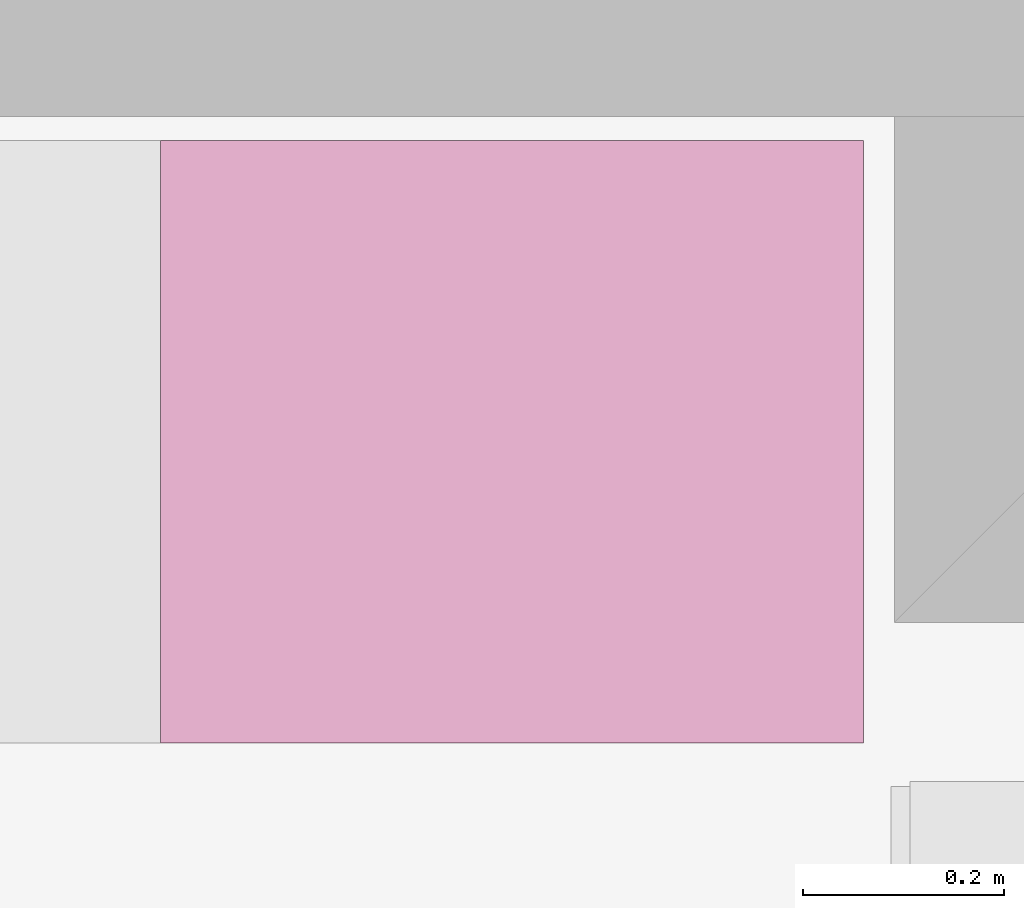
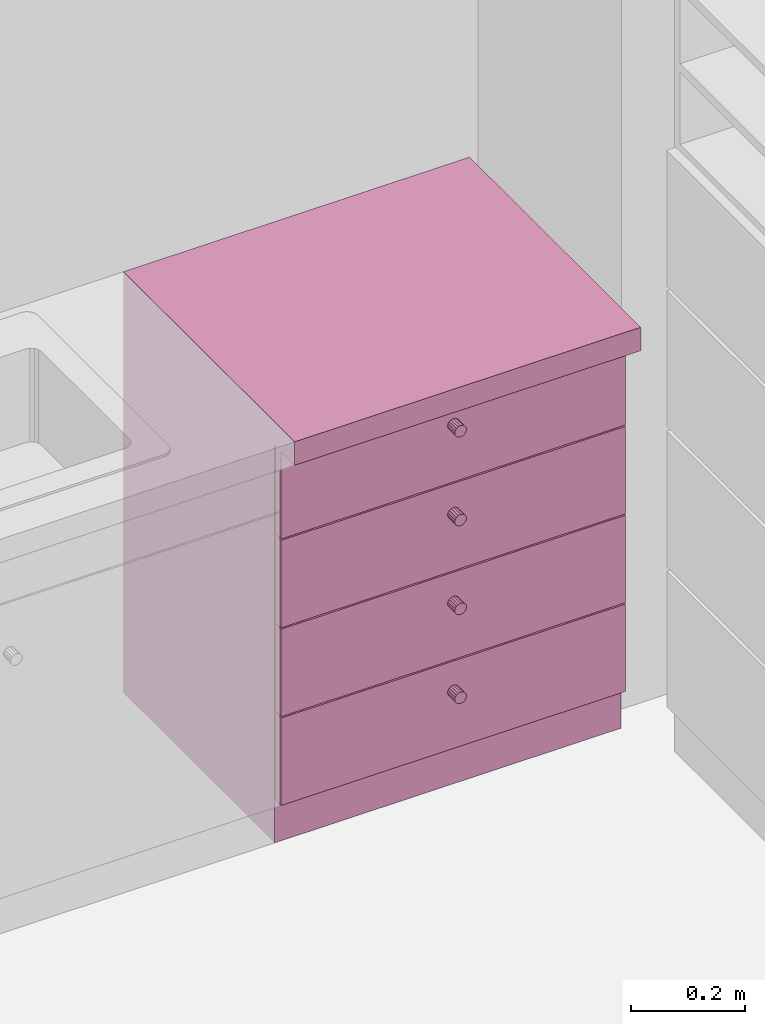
# One storey, part 168 of 194: 1 furnishing.
"""IFC2X3 building model written with IfcOpenShell, lengths in millimetres."""

import ifcopenshell
import ifcopenshell.guid

model = None  # the IFC model being written
_history = None  # IfcOwnerHistory: only IFC2X3 demands one
_inside = {}  # id of a spatial element -> (the spatial element, [elements in it])
_under = {}  # id of a project, library or spatial element -> (it, [spatial elements below it])
_declared = {}  # id of a project -> (the project, [libraries it declares])
_typed = {}  # id of a type object -> (the type object, [elements of that type])
_made_of = {}  # id of a material, layer set ... -> (it, [elements and type objects made of it])


def new_model(schema):
    """Start an empty IFC model of exactly this schema.

    Asked for "IFC4X3", IfcOpenShell would pick the latest addendum, in which some entities
    have other attributes; the version numbers below select the first issue.
    IFC2X3 requires an IfcOwnerHistory on every rooted entity: one is made here for all.
    """
    global model, _history
    if schema == "IFC4X3":
        model = ifcopenshell.file(schema_version=(4, 3, 0, 0))
    else:
        model = ifcopenshell.file(schema=schema)
    _inside.clear()
    _under.clear()
    _declared.clear()
    _typed.clear()
    _made_of.clear()
    _history = None
    if model.schema == "IFC2X3":
        org = make("IfcOrganization", Name="unknown")
        user = make(
            "IfcPersonAndOrganization",
            ThePerson=make("IfcPerson", FamilyName="unknown"),
            TheOrganization=org,
        )
        app = make(
            "IfcApplication",
            ApplicationDeveloper=org,
            Version="unknown",
            ApplicationFullName="unknown",
            ApplicationIdentifier="unknown",
        )
        _history = make(
            "IfcOwnerHistory",
            OwningUser=user,
            OwningApplication=app,
            ChangeAction="ADDED",
            CreationDate=0,
        )
    return model


def make(cls, **values):
    """One entity of the class cls with the attributes given. An attribute that is None is left unset."""
    return model.create_entity(
        cls, **{name: value for name, value in values.items() if value is not None}
    )


def entity(cls, *values):
    """Any entity or typed value of the class cls, its attributes in the order of the schema. None: left unset."""
    e = model.create_entity(cls)
    for i, value in enumerate(values):
        if value is not None:
            e[i] = value
    return e


def rooted(cls, **values):
    """An entity with a GlobalId (a new one), such as an element, a storey or a relation."""
    return make(cls, GlobalId=ifcopenshell.guid.new(), OwnerHistory=_history, **values)


def si_unit(unit_type, name, prefix=None):
    """IfcSIUnit, for example si_unit("LENGTHUNIT", "METRE", prefix="MILLI")."""
    return make("IfcSIUnit", UnitType=unit_type, Prefix=prefix, Name=name)


def converted_unit(unit_type, name, factor, base, dimensions=None, offset=None):
    """IfcConversionBasedUnit, such as the inch: factor (a typed value) times the base unit."""
    return make(
        "IfcConversionBasedUnit"
        if offset is None
        else "IfcConversionBasedUnitWithOffset",
        ConversionOffset=offset,
        Dimensions=None
        if dimensions is None
        else entity("IfcDimensionalExponents", *dimensions),
        UnitType=unit_type,
        Name=name,
        ConversionFactor=make(
            "IfcMeasureWithUnit", ValueComponent=factor, UnitComponent=base
        ),
    )


def derived_unit(unit_type, elements):
    """IfcDerivedUnit: a product of units, each with its exponent."""
    return make(
        "IfcDerivedUnit",
        Elements=[
            make("IfcDerivedUnitElement", Unit=unit, Exponent=power)
            for unit, power in elements
        ],
        UnitType=unit_type,
    )


def money_unit(currency):
    """IfcMonetaryUnit."""
    return make("IfcMonetaryUnit", Currency=currency)


def assignment(units):
    """IfcUnitAssignment: the units of a project."""
    return None if units is None else make("IfcUnitAssignment", Units=units)


def point(xyz):
    """IfcCartesianPoint."""
    return None if xyz is None else make("IfcCartesianPoint", Coordinates=xyz)


def direction(xyz):
    """IfcDirection."""
    return None if xyz is None else make("IfcDirection", DirectionRatios=xyz)


def frame(location, z_axis=None, x_axis=None):
    """IfcAxis2Placement3D, a coordinate frame: its origin and axes. An axis left out is left unset."""
    return make(
        "IfcAxis2Placement3D",
        Location=point(location),
        Axis=direction(z_axis),
        RefDirection=direction(x_axis),
    )


def origin_with_axes():
    """The frame at (0, 0, 0) with the z axis (0, 0, 1) and the x axis (1, 0, 0) written out."""
    return frame((0.0, 0.0, 0.0), z_axis=(0.0, 0.0, 1.0), x_axis=(1.0, 0.0, 0.0))


def place(relative_to, where):
    """IfcLocalPlacement: puts the frame where relative to a parent placement (None: the world)."""
    return make(
        "IfcLocalPlacement", PlacementRelTo=relative_to, RelativePlacement=where
    )


def context(
    kind, dimensions, precision=None, world=None, true_north=None, identifier=None
):
    """IfcGeometricRepresentationContext, for example the 3D "Model" context."""
    return make(
        "IfcGeometricRepresentationContext",
        ContextIdentifier=identifier,
        ContextType=kind,
        CoordinateSpaceDimension=dimensions,
        Precision=precision,
        WorldCoordinateSystem=world,
        TrueNorth=true_north,
    )


def subcontext(parent, identifier, kind, view, scale=None):
    """IfcGeometricRepresentationSubContext, for example "Body" below "Model"."""
    return make(
        "IfcGeometricRepresentationSubContext",
        ContextIdentifier=identifier,
        ContextType=kind,
        ParentContext=parent,
        TargetScale=scale,
        TargetView=view,
    )


def project(units=None, contexts=None):
    """IfcProject with its units and contexts."""
    return rooted(
        "IfcProject",
        Name="project",
        RepresentationContexts=contexts,
        UnitsInContext=assignment(units),
    )


def spatial(cls, under=None, at=None, **own):
    """A site, building, storey or space (cls), placed at a placement, below another one or the project."""
    s = rooted(cls, ObjectPlacement=at, **own)
    if under is not None:
        _under.setdefault(under.id(), (under, []))[1].append(s)
    return s


def faces_of(points, faces, orient=None, outer=None):
    """IfcFace entities. A face is a list of loops; a loop is a list of indices into points, from 0.

    orient and outer hold one flag for each loop. By default every Orientation is true, the
    first loop of a face is its IfcFaceOuterBound and the others are IfcFaceBound.
    """
    made = []
    for i, loops in enumerate(faces):
        bounds = []
        for j, loop in enumerate(loops):
            is_outer = j == 0 if outer is None else outer[i][j]
            bounds.append(
                make(
                    "IfcFaceOuterBound" if is_outer else "IfcFaceBound",
                    Bound=make("IfcPolyLoop", Polygon=[points[k] for k in loop]),
                    Orientation=True if orient is None else orient[i][j],
                )
            )
        made.append(make("IfcFace", Bounds=bounds))
    return made


def faceted_brep(points, faces, orient=None, outer=None, voids=None):
    """IfcFacetedBrep: a solid bounded by flat faces; with voids (closed shells), ...WithVoids."""
    shared = [point(p) for p in points]
    hull = make("IfcClosedShell", CfsFaces=faces_of(shared, faces, orient, outer))
    if voids is None:
        return make("IfcFacetedBrep", Outer=hull)
    return make(
        "IfcFacetedBrepWithVoids",
        Outer=hull,
        Voids=[
            make(cls, CfsFaces=faces_of(shared, fs, o, b)) for cls, fs, o, b in voids
        ],
    )


def shape(context_of_items, identifier, shape_type, items):
    """IfcShapeRepresentation: the items that make up one representation, for example the "Body"."""
    return make(
        "IfcShapeRepresentation",
        ContextOfItems=context_of_items,
        RepresentationIdentifier=identifier,
        RepresentationType=shape_type,
        Items=items,
    )


def made_of(thing, what):
    """Note that an element or type object is made of a material, layer set ...; save() writes the relation."""
    if what is not None:
        _made_of.setdefault(what.id(), (what, []))[1].append(thing)
    return thing


def type_object(cls, material=None, **own):
    """A type object (cls), such as IfcWallType, which elements share."""
    return made_of(rooted(cls, **own), material)


def element(
    cls,
    number,
    at=None,
    inside=None,
    cuts=None,
    type_object=None,
    material=None,
    context=None,
    identifier="Body",
    shape_type=None,
    held_by="IfcProductDefinitionShape",
    body=None,
    shapes=None,
    **own,
):
    """One element of the class cls, such as IfcWall. Its Tag is "e" and its number.

    at: its placement. inside: the storey or other place that contains it. cuts: it is an
    opening in that element (IfcRelVoidsElement). A single representation is given by context,
    identifier, shape_type and body (its items); several are given by shapes. held_by: the class
    of the entity that holds the representations. save() writes the other relations.
    """
    e = rooted(cls, Tag="e%d" % number, ObjectPlacement=at, **own)
    if body is not None:
        shapes = [shape(context, identifier, shape_type, body)]
    if shapes is not None:
        e.Representation = make(held_by, Representations=shapes)
    if inside is not None:
        _inside.setdefault(inside.id(), (inside, []))[1].append(e)
    if cuts is not None:
        rooted(
            "IfcRelVoidsElement", RelatingBuildingElement=cuts, RelatedOpeningElement=e
        )
    if type_object is not None:
        _typed.setdefault(type_object.id(), (type_object, []))[1].append(e)
    return made_of(e, material)


def aggregate(whole, parts):
    """IfcRelAggregates: a whole, such as a stair, and the parts it consists of."""
    return rooted("IfcRelAggregates", RelatingObject=whole, RelatedObjects=parts)


def save(model, path):
    """Write the relations noted so far, then the file.

    IfcRelAggregates (storeys below a building ...), IfcRelContainedInSpatialStructure (elements
    in a storey), IfcRelDefinesByType, IfcRelAssociatesMaterial and IfcRelDeclares: one each for
    every whole, place, type object, material and project.
    """
    for whole, parts in _under.values():
        aggregate(whole, parts)
    for where, things in _inside.values():
        rooted(
            "IfcRelContainedInSpatialStructure",
            RelatedElements=things,
            RelatingStructure=where,
        )
    for kind, things in _typed.values():
        rooted("IfcRelDefinesByType", RelatedObjects=things, RelatingType=kind)
    for what, things in _made_of.values():
        rooted("IfcRelAssociatesMaterial", RelatedObjects=things, RelatingMaterial=what)
    for by, libraries in _declared.values():
        rooted("IfcRelDeclares", RelatingContext=by, RelatedDefinitions=libraries)
    model.write(path)


model = new_model("IFC2X3")

# Units and contexts
model_context = context("Model", 3, precision=1e-05, world=origin_with_axes(), true_north=direction((0.0, 1.0)))
body_context = subcontext(model_context, "Body", "Model", "MODEL_VIEW")
ifc_project = project(units=[si_unit("LENGTHUNIT", "METRE", prefix="MILLI"), si_unit("AREAUNIT", "SQUARE_METRE"), si_unit("VOLUMEUNIT", "CUBIC_METRE"), converted_unit("PLANEANGLEUNIT", "DEGREE", entity("IfcPlaneAngleMeasure", 0.0174532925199), si_unit("PLANEANGLEUNIT", "RADIAN"), dimensions=[0, 0, 0, 0, 0, 0, 0]), si_unit("SOLIDANGLEUNIT", "STERADIAN"), money_unit("EUR"), converted_unit("TIMEUNIT", "Year", entity("IfcTimeMeasure", 31556926.0), si_unit("TIMEUNIT", "SECOND"), dimensions=[0, 0, 1, 0, 0, 0, 0]), si_unit("MASSUNIT", "GRAM", prefix="KILO"), si_unit("THERMODYNAMICTEMPERATUREUNIT", "DEGREE_CELSIUS"), si_unit("LUMINOUSINTENSITYUNIT", "LUMEN"), si_unit("ENERGYUNIT", "JOULE", prefix="MEGA"), derived_unit("THERMALCONDUCTANCEUNIT", [(si_unit("POWERUNIT", "WATT"), 1), (si_unit("LENGTHUNIT", "METRE"), -1), (si_unit("THERMODYNAMICTEMPERATUREUNIT", "KELVIN"), -1)]), derived_unit("SPECIFICHEATCAPACITYUNIT", [(si_unit("ENERGYUNIT", "JOULE"), 1), (si_unit("MASSUNIT", "GRAM", prefix="KILO"), -1), (si_unit("THERMODYNAMICTEMPERATUREUNIT", "KELVIN"), -1)]), derived_unit("MASSDENSITYUNIT", [(si_unit("MASSUNIT", "GRAM", prefix="KILO"), 1), (si_unit("VOLUMEUNIT", "CUBIC_METRE"), -1)])], contexts=[model_context])

# Site, building, storey
site_placement = place(None, origin_with_axes())
site = spatial("IfcSite", under=ifc_project, at=site_placement, Name="Site", CompositionType="ELEMENT")
building_placement = place(site_placement, origin_with_axes())
building = spatial("IfcBuilding", under=site, at=building_placement, Name="Building", CompositionType="ELEMENT")
storey_placement = place(building_placement, frame((0.0, 0.0, 3000.0), z_axis=(0.0, 0.0, 1.0), x_axis=(1.0, 0.0, 0.0)))
storey = spatial("IfcBuildingStorey", under=building, at=storey_placement, Name="2 KORRUS", CompositionType="ELEMENT", Elevation=3000.0)

# Furnishing
furnishing_element_type = type_object("IfcFurnishingElementType", Name="Model Element 58")
furnishing_placement = place(storey_placement, frame((59486.9403796, 40057.9196462, 0.0), z_axis=(0.0, 0.0, 1.0), x_axis=(1.0, 0.0, 0.0)))
element("IfcFurnishingElement", 1, at=furnishing_placement, inside=storey, type_object=furnishing_element_type, Name="FU - 017", context=body_context, shape_type="Brep", body=[
    faceted_brep([(1.5, 70.0, 91.5), (698.5, 70.0, 91.5), (698.5, 50.0, 91.5), (1.5, 50.0, 91.5), (1.5, 70.0, 278.5), (698.5, 70.0, 278.5), (698.5, 50.0, 278.5), (1.5, 50.0, 278.5)], [[[0, 1, 2, 3]], [[0, 4, 5, 1]], [[1, 5, 6, 2]], [[3, 2, 6, 7]], [[4, 0, 3, 7]], [[5, 4, 7, 6]]]),
    faceted_brep([(345.407798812, 50.0, 203.91344561), (341.514718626, 50.0, 206.514718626), (338.91344561, 50.0, 210.407798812), (338.0, 50.0, 215.0), (338.91344561, 50.0, 219.592201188), (341.514718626, 50.0, 223.485281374), (345.407798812, 50.0, 226.08655439), (350.0, 50.0, 227.0), (354.592201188, 50.0, 226.08655439), (358.485281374, 50.0, 223.485281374), (361.08655439, 50.0, 219.592201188), (362.0, 50.0, 215.0), (361.08655439, 50.0, 210.407798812), (358.485281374, 50.0, 206.514718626), (354.592201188, 50.0, 203.91344561), (350.0, 50.0, 203.0), (345.407798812, 25.0, 203.91344561), (341.514718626, 25.0, 206.514718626), (338.91344561, 25.0, 210.407798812), (338.0, 25.0, 215.0), (338.91344561, 25.0, 219.592201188), (341.514718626, 25.0, 223.485281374), (345.407798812, 25.0, 226.08655439), (350.0, 25.0, 227.0), (354.592201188, 25.0, 226.08655439), (358.485281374, 25.0, 223.485281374), (361.08655439, 25.0, 219.592201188), (362.0, 25.0, 215.0), (361.08655439, 25.0, 210.407798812), (358.485281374, 25.0, 206.514718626), (354.592201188, 25.0, 203.91344561), (350.0, 25.0, 203.0)], [[[0, 1, 2, 3, 4, 5, 6, 7, 8, 9, 10, 11, 12, 13, 14, 15]], [[1, 0, 16, 17]], [[2, 1, 17, 18]], [[3, 2, 18, 19]], [[4, 3, 19, 20]], [[5, 4, 20, 21]], [[6, 5, 21, 22]], [[7, 6, 22, 23]], [[8, 7, 23, 24]], [[9, 8, 24, 25]], [[10, 9, 25, 26]], [[11, 10, 26, 27]], [[12, 11, 27, 28]], [[13, 12, 28, 29]], [[14, 13, 29, 30]], [[15, 14, 30, 31]], [[0, 15, 31, 16]], [[16, 31, 30, 29, 28, 27, 26, 25, 24, 23, 22, 21, 20, 19, 18, 17]]]),
    faceted_brep([(1.5, 70.0, 281.5), (698.5, 70.0, 281.5), (698.5, 50.0, 281.5), (1.5, 50.0, 281.5), (1.5, 70.0, 468.5), (698.5, 70.0, 468.5), (698.5, 50.0, 468.5), (1.5, 50.0, 468.5)], [[[0, 1, 2, 3]], [[0, 4, 5, 1]], [[1, 5, 6, 2]], [[3, 2, 6, 7]], [[4, 0, 3, 7]], [[5, 4, 7, 6]]]),
    faceted_brep([(345.407798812, 50.0, 393.91344561), (341.514718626, 50.0, 396.514718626), (338.91344561, 50.0, 400.407798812), (338.0, 50.0, 405.0), (338.91344561, 50.0, 409.592201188), (341.514718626, 50.0, 413.485281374), (345.407798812, 50.0, 416.08655439), (350.0, 50.0, 417.0), (354.592201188, 50.0, 416.08655439), (358.485281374, 50.0, 413.485281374), (361.08655439, 50.0, 409.592201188), (362.0, 50.0, 405.0), (361.08655439, 50.0, 400.407798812), (358.485281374, 50.0, 396.514718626), (354.592201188, 50.0, 393.91344561), (350.0, 50.0, 393.0), (345.407798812, 25.0, 393.91344561), (341.514718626, 25.0, 396.514718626), (338.91344561, 25.0, 400.407798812), (338.0, 25.0, 405.0), (338.91344561, 25.0, 409.592201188), (341.514718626, 25.0, 413.485281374), (345.407798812, 25.0, 416.08655439), (350.0, 25.0, 417.0), (354.592201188, 25.0, 416.08655439), (358.485281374, 25.0, 413.485281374), (361.08655439, 25.0, 409.592201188), (362.0, 25.0, 405.0), (361.08655439, 25.0, 400.407798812), (358.485281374, 25.0, 396.514718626), (354.592201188, 25.0, 393.91344561), (350.0, 25.0, 393.0)], [[[0, 1, 2, 3, 4, 5, 6, 7, 8, 9, 10, 11, 12, 13, 14, 15]], [[1, 0, 16, 17]], [[2, 1, 17, 18]], [[3, 2, 18, 19]], [[4, 3, 19, 20]], [[5, 4, 20, 21]], [[6, 5, 21, 22]], [[7, 6, 22, 23]], [[8, 7, 23, 24]], [[9, 8, 24, 25]], [[10, 9, 25, 26]], [[11, 10, 26, 27]], [[12, 11, 27, 28]], [[13, 12, 28, 29]], [[14, 13, 29, 30]], [[15, 14, 30, 31]], [[0, 15, 31, 16]], [[16, 31, 30, 29, 28, 27, 26, 25, 24, 23, 22, 21, 20, 19, 18, 17]]]),
    faceted_brep([(20.0, 70.0, 280.0), (680.0, 70.0, 280.0), (680.0, 70.0, 300.0), (20.0, 70.0, 300.0), (20.0, 580.0, 280.0), (680.0, 580.0, 280.0), (680.0, 580.0, 300.0), (20.0, 580.0, 300.0)], [[[0, 1, 2, 3]], [[0, 4, 5, 1]], [[1, 5, 6, 2]], [[3, 2, 6, 7]], [[4, 0, 3, 7]], [[5, 4, 7, 6]]]),
    faceted_brep([(1.5, 70.0, 471.5), (698.5, 70.0, 471.5), (698.5, 50.0, 471.5), (1.5, 50.0, 471.5), (1.5, 70.0, 658.5), (698.5, 70.0, 658.5), (698.5, 50.0, 658.5), (1.5, 50.0, 658.5)], [[[0, 1, 2, 3]], [[0, 4, 5, 1]], [[1, 5, 6, 2]], [[3, 2, 6, 7]], [[4, 0, 3, 7]], [[5, 4, 7, 6]]]),
    faceted_brep([(345.407798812, 50.0, 583.91344561), (341.514718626, 50.0, 586.514718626), (338.91344561, 50.0, 590.407798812), (338.0, 50.0, 595.0), (338.91344561, 50.0, 599.592201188), (341.514718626, 50.0, 603.485281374), (345.407798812, 50.0, 606.08655439), (350.0, 50.0, 607.0), (354.592201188, 50.0, 606.08655439), (358.485281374, 50.0, 603.485281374), (361.08655439, 50.0, 599.592201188), (362.0, 50.0, 595.0), (361.08655439, 50.0, 590.407798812), (358.485281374, 50.0, 586.514718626), (354.592201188, 50.0, 583.91344561), (350.0, 50.0, 583.0), (345.407798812, 25.0, 583.91344561), (341.514718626, 25.0, 586.514718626), (338.91344561, 25.0, 590.407798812), (338.0, 25.0, 595.0), (338.91344561, 25.0, 599.592201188), (341.514718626, 25.0, 603.485281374), (345.407798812, 25.0, 606.08655439), (350.0, 25.0, 607.0), (354.592201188, 25.0, 606.08655439), (358.485281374, 25.0, 603.485281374), (361.08655439, 25.0, 599.592201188), (362.0, 25.0, 595.0), (361.08655439, 25.0, 590.407798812), (358.485281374, 25.0, 586.514718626), (354.592201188, 25.0, 583.91344561), (350.0, 25.0, 583.0)], [[[0, 1, 2, 3, 4, 5, 6, 7, 8, 9, 10, 11, 12, 13, 14, 15]], [[1, 0, 16, 17]], [[2, 1, 17, 18]], [[3, 2, 18, 19]], [[4, 3, 19, 20]], [[5, 4, 20, 21]], [[6, 5, 21, 22]], [[7, 6, 22, 23]], [[8, 7, 23, 24]], [[9, 8, 24, 25]], [[10, 9, 25, 26]], [[11, 10, 26, 27]], [[12, 11, 27, 28]], [[13, 12, 28, 29]], [[14, 13, 29, 30]], [[15, 14, 30, 31]], [[0, 15, 31, 16]], [[16, 31, 30, 29, 28, 27, 26, 25, 24, 23, 22, 21, 20, 19, 18, 17]]]),
    faceted_brep([(20.0, 70.0, 470.0), (680.0, 70.0, 470.0), (680.0, 70.0, 490.0), (20.0, 70.0, 490.0), (20.0, 580.0, 470.0), (680.0, 580.0, 470.0), (680.0, 580.0, 490.0), (20.0, 580.0, 490.0)], [[[0, 1, 2, 3]], [[0, 4, 5, 1]], [[1, 5, 6, 2]], [[3, 2, 6, 7]], [[4, 0, 3, 7]], [[5, 4, 7, 6]]]),
    faceted_brep([(1.5, 70.0, 661.5), (698.5, 70.0, 661.5), (698.5, 50.0, 661.5), (1.5, 50.0, 661.5), (1.5, 70.0, 848.5), (698.5, 70.0, 848.5), (698.5, 50.0, 848.5), (1.5, 50.0, 848.5)], [[[0, 1, 2, 3]], [[0, 4, 5, 1]], [[1, 5, 6, 2]], [[3, 2, 6, 7]], [[4, 0, 3, 7]], [[5, 4, 7, 6]]]),
    faceted_brep([(345.407798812, 50.0, 773.91344561), (341.514718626, 50.0, 776.514718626), (338.91344561, 50.0, 780.407798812), (338.0, 50.0, 785.0), (338.91344561, 50.0, 789.592201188), (341.514718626, 50.0, 793.485281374), (345.407798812, 50.0, 796.08655439), (350.0, 50.0, 797.0), (354.592201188, 50.0, 796.08655439), (358.485281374, 50.0, 793.485281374), (361.08655439, 50.0, 789.592201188), (362.0, 50.0, 785.0), (361.08655439, 50.0, 780.407798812), (358.485281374, 50.0, 776.514718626), (354.592201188, 50.0, 773.91344561), (350.0, 50.0, 773.0), (345.407798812, 25.0, 773.91344561), (341.514718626, 25.0, 776.514718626), (338.91344561, 25.0, 780.407798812), (338.0, 25.0, 785.0), (338.91344561, 25.0, 789.592201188), (341.514718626, 25.0, 793.485281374), (345.407798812, 25.0, 796.08655439), (350.0, 25.0, 797.0), (354.592201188, 25.0, 796.08655439), (358.485281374, 25.0, 793.485281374), (361.08655439, 25.0, 789.592201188), (362.0, 25.0, 785.0), (361.08655439, 25.0, 780.407798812), (358.485281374, 25.0, 776.514718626), (354.592201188, 25.0, 773.91344561), (350.0, 25.0, 773.0)], [[[0, 1, 2, 3, 4, 5, 6, 7, 8, 9, 10, 11, 12, 13, 14, 15]], [[1, 0, 16, 17]], [[2, 1, 17, 18]], [[3, 2, 18, 19]], [[4, 3, 19, 20]], [[5, 4, 20, 21]], [[6, 5, 21, 22]], [[7, 6, 22, 23]], [[8, 7, 23, 24]], [[9, 8, 24, 25]], [[10, 9, 25, 26]], [[11, 10, 26, 27]], [[12, 11, 27, 28]], [[13, 12, 28, 29]], [[14, 13, 29, 30]], [[15, 14, 30, 31]], [[0, 15, 31, 16]], [[16, 31, 30, 29, 28, 27, 26, 25, 24, 23, 22, 21, 20, 19, 18, 17]]]),
    faceted_brep([(20.0, 70.0, 660.0), (680.0, 70.0, 660.0), (680.0, 70.0, 680.0), (20.0, 70.0, 680.0), (20.0, 580.0, 660.0), (680.0, 580.0, 660.0), (680.0, 580.0, 680.0), (20.0, 580.0, 680.0)], [[[0, 1, 2, 3]], [[0, 4, 5, 1]], [[1, 5, 6, 2]], [[3, 2, 6, 7]], [[4, 0, 3, 7]], [[5, 4, 7, 6]]]),
    faceted_brep([(0.0, 70.0, 0.0), (700.0, 70.0, 0.0), (700.0, 70.0, 90.0), (0.0, 70.0, 90.0), (0.0, 600.0, 0.0), (700.0, 600.0, 0.0), (700.0, 600.0, 90.0), (0.0, 600.0, 90.0)], [[[0, 1, 2, 3]], [[0, 4, 5, 1]], [[1, 5, 6, 2]], [[3, 2, 6, 7]], [[4, 0, 3, 7]], [[5, 4, 7, 6]]]),
    faceted_brep([(0.0, 70.0, 830.0), (20.0, 70.0, 830.0), (20.0, 70.0, 850.0), (0.0, 70.0, 850.0), (0.0, 600.0, 830.0), (20.0, 600.0, 830.0), (680.0, 600.0, 830.0), (700.0, 600.0, 830.0), (700.0, 70.0, 830.0), (680.0, 70.0, 830.0), (680.0, 70.0, 850.0), (700.0, 70.0, 850.0), (700.0, 600.0, 850.0), (680.0, 600.0, 850.0), (20.0, 600.0, 850.0), (0.0, 600.0, 850.0)], [[[0, 1, 2, 3]], [[0, 4, 5, 6, 7, 8, 9, 1]], [[1, 9, 10, 2]], [[3, 2, 10, 11, 12, 13, 14, 15]], [[4, 0, 3, 15]], [[5, 4, 15, 14]], [[6, 5, 14, 13]], [[7, 6, 13, 12]], [[8, 7, 12, 11]], [[9, 8, 11, 10]]]),
    faceted_brep([(0.0, 70.0, 90.0), (20.0, 70.0, 90.0), (20.0, 70.0, 110.0), (0.0, 70.0, 110.0), (0.0, 600.0, 90.0), (20.0, 600.0, 90.0), (680.0, 600.0, 90.0), (700.0, 600.0, 90.0), (700.0, 70.0, 90.0), (680.0, 70.0, 90.0), (680.0, 70.0, 110.0), (700.0, 70.0, 110.0), (700.0, 600.0, 110.0), (680.0, 600.0, 110.0), (20.0, 600.0, 110.0), (0.0, 600.0, 110.0)], [[[0, 1, 2, 3]], [[0, 4, 5, 6, 7, 8, 9, 1]], [[1, 9, 10, 2]], [[3, 2, 10, 11, 12, 13, 14, 15]], [[4, 0, 3, 15]], [[5, 4, 15, 14]], [[6, 5, 14, 13]], [[7, 6, 13, 12]], [[8, 7, 12, 11]], [[9, 8, 11, 10]]]),
    faceted_brep([(0.0, 70.0, 110.0), (20.0, 70.0, 110.0), (20.0, 70.0, 830.0), (0.0, 70.0, 830.0), (0.0, 600.0, 110.0), (700.0, 600.0, 110.0), (700.0, 70.0, 110.0), (680.0, 70.0, 110.0), (680.0, 580.0, 110.0), (20.0, 580.0, 110.0), (20.0, 580.0, 830.0), (680.0, 580.0, 830.0), (680.0, 70.0, 830.0), (700.0, 70.0, 830.0), (700.0, 600.0, 830.0), (0.0, 600.0, 830.0)], [[[0, 1, 2, 3]], [[0, 4, 5, 6, 7, 8, 9, 1]], [[1, 9, 10, 2]], [[3, 2, 10, 11, 12, 13, 14, 15]], [[4, 0, 3, 15]], [[5, 4, 15, 14]], [[6, 5, 14, 13]], [[7, 6, 13, 12]], [[8, 7, 12, 11]], [[9, 8, 11, 10]]]),
    faceted_brep([(0.0, 0.0, 850.0), (700.0, 0.0, 850.0), (700.0, 0.0, 900.0), (0.0, 0.0, 900.0), (0.0, 600.0, 850.0), (700.0, 600.0, 850.0), (700.0, 600.0, 900.0), (0.0, 600.0, 900.0)], [[[0, 1, 2, 3]], [[0, 4, 5, 1]], [[1, 5, 6, 2]], [[3, 2, 6, 7]], [[4, 0, 3, 7]], [[5, 4, 7, 6]]]),
])

save(model, "model.ifc")
